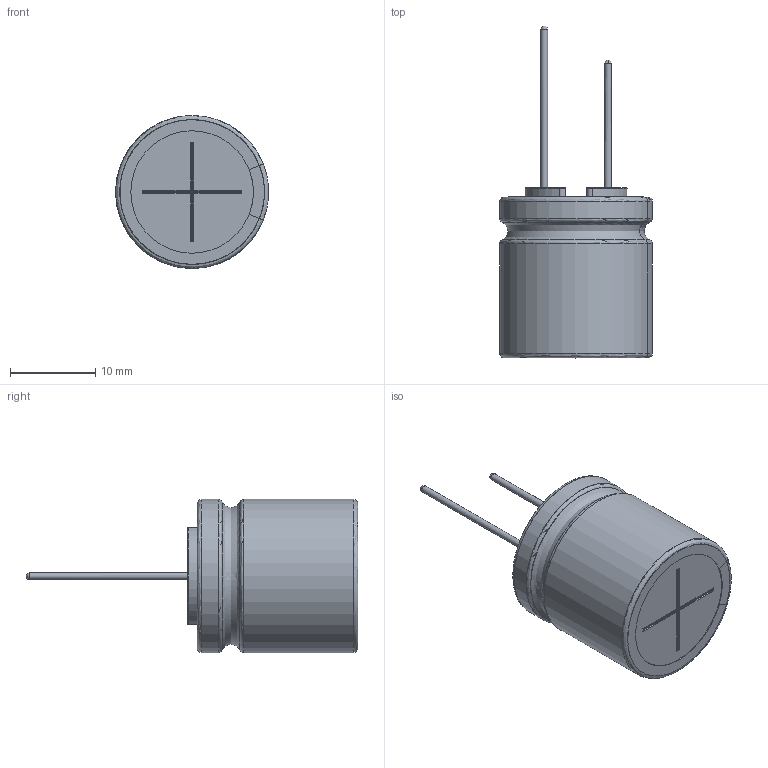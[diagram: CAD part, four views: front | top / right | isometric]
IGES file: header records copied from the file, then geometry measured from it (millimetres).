
Start section: JAMA-IS VERSION  1.0
Bounding box: 17.97 x 39 x 18 mm (x, y, z)
Surface area: 4238.7 mm2 (no closed solid volume)
Topology: 0 solids, 0 shells, 132 faces, 1531 edges, 1512 vertices
Faces by surface type: bspline 132
